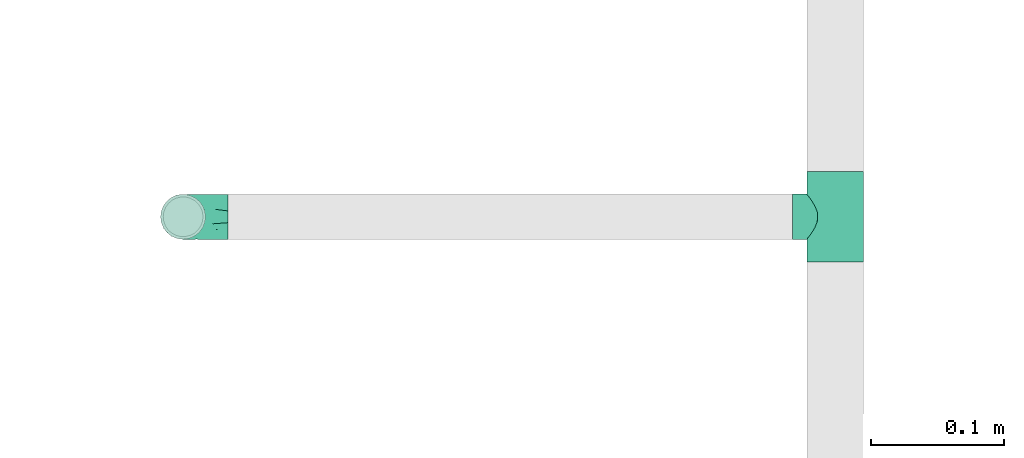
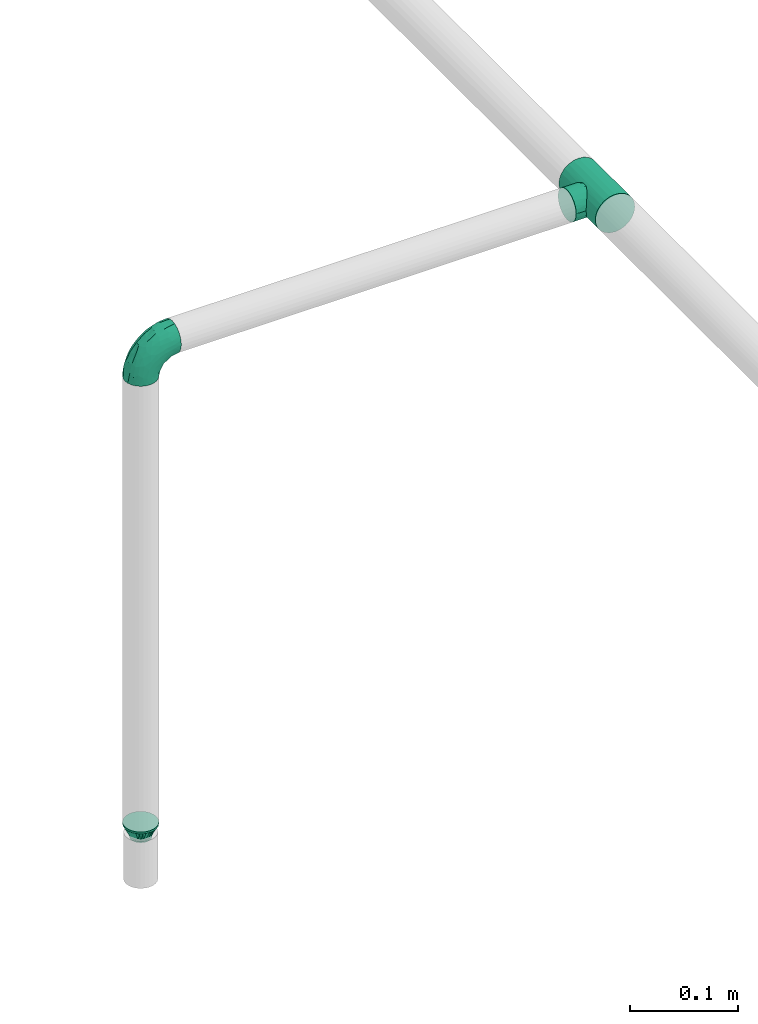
# One storey, part 40 of 95: 3 flow fittings.
"""IFC2X3 building model written with IfcOpenShell, lengths in millimetres."""

from ifc_helpers import new_model, entity, si_unit, converted_unit, derived_unit, direction, frame, origin_with_axes, place, context, subcontext, project, spatial, open_shell, surface_model, source, transform, mapped, type_object, element, save


model = new_model("IFC2X3")

# Units and contexts
model_context = context("Model", 3, precision=0.01, world=frame((0.0, 4.29681676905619e-09, 0.0)), true_north=direction((4.01073788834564e-13, 1.0)))
plan_context = context("Plan", 3, precision=0.01, world=frame((0.0, 4.29681676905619e-09, 0.0)), true_north=direction((4.01073788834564e-13, 1.0)))
body_context = subcontext(model_context, "Body", "Model", "MODEL_VIEW")
ifc_project = project(units=[converted_unit("PLANEANGLEUNIT", "DEGREE", entity("IfcPositiveLengthMeasure", 0.0174532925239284), si_unit("PLANEANGLEUNIT", "RADIAN"), dimensions=[0, 0, 0, 0, 0, 0, 0]), si_unit("AREAUNIT", "SQUARE_METRE"), si_unit("LENGTHUNIT", "METRE", prefix="MILLI"), si_unit("MASSUNIT", "GRAM", prefix="KILO"), si_unit("POWERUNIT", "WATT"), si_unit("PRESSUREUNIT", "PASCAL"), si_unit("FORCEUNIT", "NEWTON", prefix="KILO"), si_unit("ELECTRICVOLTAGEUNIT", "VOLT"), si_unit("ELECTRICCURRENTUNIT", "AMPERE"), si_unit("THERMODYNAMICTEMPERATUREUNIT", "DEGREE_CELSIUS"), si_unit("TIMEUNIT", "SECOND"), si_unit("VOLUMEUNIT", "CUBIC_METRE"), derived_unit("LINEARVELOCITYUNIT", [(si_unit("LENGTHUNIT", "METRE"), 1), (si_unit("TIMEUNIT", "SECOND"), -1)]), derived_unit("VOLUMETRICFLOWRATEUNIT", [(si_unit("VOLUMEUNIT", "CUBIC_METRE"), 1), (si_unit("TIMEUNIT", "SECOND"), -1)]), derived_unit("THERMALTRANSMITTANCEUNIT", [(si_unit("POWERUNIT", "WATT"), 1), (si_unit("THERMODYNAMICTEMPERATUREUNIT", "KELVIN"), -1), (si_unit("AREAUNIT", "SQUARE_METRE"), -1)]), derived_unit("SOUNDPRESSUREUNIT", [(si_unit("PRESSUREUNIT", "PASCAL"), 1)])], contexts=[model_context, plan_context])

# Site, building, storey
site_placement = place(None, frame((0.0, -4.29681676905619e-09, 0.0), z_axis=(0.0, 0.0, 1.0), x_axis=(1.0, 0.0, 0.0)))
site = spatial("IfcSite", under=ifc_project, at=site_placement, CompositionType="ELEMENT")
building_placement = place(site_placement, frame((0.0, 4.29681676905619e-09, 0.0), z_axis=(0.0, 0.0, 1.0), x_axis=(1.0, 0.0, 0.0)))
building = spatial("IfcBuilding", under=site, at=building_placement, Name="mc-building", CompositionType="ELEMENT")
storey_placement = place(building_placement, frame((0.0, 0.0, 210900.0), z_axis=(0.0, 0.0, 1.0), x_axis=(1.0, 0.0, 0.0)))
storey = spatial("IfcBuildingStorey", under=building, at=storey_placement, Name="Nivå F", CompositionType="ELEMENT", Elevation=210900.0)

# Flow fittings
pipe_fitting_type_1 = type_object("IfcPipeFittingType", Name="magi_pipe_fe_reducer_centric_short_NOR", PredefinedType="TRANSITION")
shared_shape_1 = source(origin_with_axes(), body_context, "Body", "SurfaceModel", [
    surface_model("IfcShellBasedSurfaceModel", [(14.4, 5.35, -9.26647), (14.4, 0.0, -10.7), (14.4, 2.76936, -10.33541), (14.4, 10.33541, -2.76936), (14.4, 7.56604, -7.56604), (14.4, -10.33541, -2.76936), (14.4, 9.26647, -5.35), (14.4, 0.0, 10.7), (14.4, -5.35, -9.26647), (14.4, -2.76936, -10.33541), (14.4, -7.56604, -7.56604), (14.4, -9.26647, -5.35), (14.4, 10.7, 0.0), (14.4, 10.33541, 2.76936), (14.4, 9.26647, 5.35), (14.4, 7.56604, 7.56604), (14.4, 2.76936, 10.33541), (14.4, 5.35, 9.26647), (14.4, -10.33541, 2.76936), (14.4, -7.56604, 7.56604), (14.4, -9.26647, 5.35), (14.4, -10.7, 0.0), (14.4, -2.76936, 10.33541), (14.4, -5.35, 9.26647), (12.4, 2.76936, 10.33541), (12.4, -10.33541, -2.76936), (12.4, 0.0, 10.7), (12.4, 5.35, 9.26647), (12.4, 7.56604, 7.56604), (12.4, 9.26647, 5.35), (12.4, 10.33541, 2.76936), (12.4, -10.33541, 2.76936), (12.4, -2.76936, 10.33541), (12.4, -7.56604, 7.56604), (12.4, -5.35, 9.26647), (12.4, -9.26647, 5.35), (12.4, -10.7, 0.0), (12.4, 10.33541, -2.76936), (12.4, 5.35, -9.26647), (12.4, 9.26647, -5.35), (12.4, 7.56604, -7.56604), (12.4, 2.76936, -10.33541), (12.4, -9.26647, -5.35), (12.4, -5.35, -9.26647), (12.4, -7.56604, -7.56604), (12.4, 0.0, -10.7), (12.4, -2.76936, -10.33541), (12.4, 10.7, 0.0), (-2.0, 11.9501, 11.9501), (-2.0, 0.0, 16.9), (-2.0, 4.37404, 16.32415), (-2.0, 8.45, 14.63583), (-2.0, 14.63583, 8.45), (-2.0, 16.32415, 4.37404), (-2.0, -16.32415, 4.37404), (-2.0, -8.45, 14.63583), (-2.0, -14.63583, 8.45), (-2.0, -11.9501, 11.9501), (-2.0, -4.37404, 16.32415), (-2.0, -16.32415, -4.37404), (-2.0, -16.9, 0.0), (-2.0, -8.45, -14.63583), (-2.0, 16.32415, -4.37404), (-2.0, 11.9501, -11.9501), (-2.0, 14.63583, -8.45), (-2.0, 8.45, -14.63583), (-2.0, 4.37404, -16.32415), (-2.0, 0.0, -16.9), (-2.0, -11.9501, -11.9501), (-2.0, -14.63583, -8.45), (-2.0, -4.37404, -16.32415), (-2.0, 16.9, 0.0), (0.0, 4.37404, -16.32415), (0.0, 8.45, -14.63583), (0.0, 11.9501, -11.9501), (0.0, 0.0, -16.9), (0.0, 16.32415, -4.37404), (0.0, 16.32415, 4.37404), (0.0, 14.63583, -8.45), (0.0, -8.45, -14.63583), (0.0, -4.37404, -16.32415), (0.0, -11.9501, -11.9501), (0.0, -16.32415, -4.37404), (0.0, -14.63583, -8.45), (0.0, -16.32415, 4.37404), (0.0, 16.9, 0.0), (0.0, 14.63583, 8.45), (0.0, 11.9501, 11.9501), (0.0, 4.37404, 16.32415), (0.0, 8.45, 14.63583), (0.0, 0.0, 16.9), (0.0, -14.63583, 8.45), (0.0, -16.9, 0.0), (0.0, -8.45, 14.63583), (0.0, -11.9501, 11.9501), (0.0, -4.37404, 16.32415), (12.4, 9.3625, -2.31662), (0.0, 14.42505, -5.97505), (0.0, 15.66253, -2.98753), (12.4, -6.6875, -6.94985), (0.0, -13.18758, -8.96258), (0.0, 2.98753, -15.66253), (12.4, 0.0, -9.26647), (12.4, 6.6875, -6.94985), (0.0, 8.96258, -13.18758), (12.4, -9.3625, -2.31662), (0.0, -15.66253, -2.98753), (0.0, -14.42505, -5.97505), (0.0, 5.97505, -14.42505), (0.0, -2.98753, -15.66253), (0.0, -8.96258, -13.18758), (0.0, 13.18758, -8.96258), (12.4, 8.025, -4.63324), (12.4, -2.675, -9.26647), (12.4, 2.675, -9.26647), (0.0, -5.97505, -14.42505), (12.4, -8.025, -4.63324), (12.4, -9.3625, 2.31662), (0.0, -14.42505, 5.97505), (0.0, -15.66253, 2.98753), (12.4, 6.6875, 6.94985), (0.0, 13.18758, 8.96258), (0.0, -2.98753, 15.66253), (12.4, 0.0, 9.26647), (12.4, -6.6875, 6.94985), (0.0, -8.96258, 13.18758), (12.4, 9.3625, 2.31662), (0.0, 15.66253, 2.98753), (0.0, 14.42505, 5.97505), (0.0, -5.97505, 14.42505), (0.0, 2.98753, 15.66253), (0.0, 8.96258, 13.18758), (0.0, -13.18758, 8.96258), (12.4, -8.025, 4.63324), (12.4, 2.675, 9.26647), (12.4, -2.675, 9.26647), (0.0, 5.97505, 14.42505), (12.4, 8.025, 4.63324)], [open_shell([[[0, 1, 2]], [[3, 0, 4]], [[5, 0, 3]], [[3, 4, 6]], [[7, 5, 3]], [[1, 8, 9]], [[1, 0, 8]], [[10, 5, 11]], [[5, 10, 8]], [[0, 5, 8]], [[3, 12, 13]], [[13, 14, 15]], [[13, 15, 16]], [[7, 3, 16]], [[16, 15, 17]], [[7, 18, 5]], [[18, 19, 20]], [[21, 5, 18]], [[19, 22, 23]], [[22, 19, 18]], [[7, 22, 18]], [[13, 16, 3]], [[24, 25, 26]], [[27, 25, 24]], [[28, 29, 30]], [[28, 25, 27]], [[31, 26, 25]], [[32, 33, 34]], [[33, 32, 31]], [[33, 31, 35]], [[32, 26, 31]], [[31, 25, 36]], [[30, 37, 28]], [[25, 28, 37]], [[38, 37, 39]], [[37, 38, 25]], [[38, 39, 40]], [[41, 25, 38]], [[42, 43, 44]], [[43, 42, 25]], [[43, 45, 46]], [[43, 25, 41]], [[41, 45, 43]], [[37, 30, 47]], [[25, 5, 36]], [[42, 11, 25]], [[8, 44, 43]], [[42, 44, 10]], [[9, 43, 46]], [[25, 11, 5]], [[5, 21, 36]], [[9, 8, 43]], [[10, 44, 8]], [[10, 11, 42]], [[1, 9, 46]], [[46, 45, 1]], [[41, 2, 45]], [[38, 0, 41]], [[6, 40, 39]], [[38, 40, 4]], [[3, 39, 37]], [[38, 4, 0]], [[0, 2, 41]], [[12, 3, 37]], [[6, 39, 3]], [[6, 4, 40]], [[47, 12, 37]], [[45, 2, 1]], [[30, 13, 47]], [[29, 14, 30]], [[17, 28, 27]], [[29, 28, 15]], [[16, 27, 24]], [[30, 14, 13]], [[13, 12, 47]], [[16, 17, 27]], [[15, 28, 17]], [[15, 14, 29]], [[7, 16, 24]], [[24, 26, 7]], [[32, 22, 26]], [[34, 23, 32]], [[20, 33, 35]], [[34, 33, 19]], [[18, 35, 31]], [[34, 19, 23]], [[23, 22, 32]], [[21, 18, 31]], [[20, 35, 18]], [[20, 19, 33]], [[36, 21, 31]], [[26, 22, 7]], [[48, 49, 50]], [[48, 50, 51]], [[48, 52, 53]], [[48, 53, 49]], [[49, 53, 54]], [[55, 56, 57]], [[55, 58, 49]], [[56, 55, 49]], [[49, 54, 56]], [[54, 59, 60]], [[54, 53, 61]], [[53, 62, 63]], [[63, 62, 64]], [[63, 65, 66]], [[61, 53, 63]], [[67, 63, 66]], [[59, 68, 69]], [[68, 59, 61]], [[61, 67, 70]], [[59, 54, 61]], [[63, 67, 61]], [[53, 71, 62]], [[72, 73, 74]], [[75, 72, 74]], [[74, 76, 77]], [[76, 74, 78]], [[74, 77, 79]], [[75, 79, 80]], [[75, 74, 79]], [[81, 82, 83]], [[82, 81, 79]], [[79, 84, 82]], [[77, 76, 85]], [[77, 86, 87]], [[77, 87, 88]], [[88, 84, 79]], [[88, 87, 89]], [[84, 88, 90]], [[90, 91, 84]], [[92, 82, 84]], [[91, 93, 94]], [[91, 90, 93]], [[93, 90, 95]], [[79, 77, 88]], [[59, 82, 60]], [[69, 83, 59]], [[79, 68, 61]], [[69, 68, 81]], [[80, 61, 70]], [[59, 83, 82]], [[82, 92, 60]], [[80, 79, 61]], [[81, 68, 79]], [[81, 83, 69]], [[75, 80, 70]], [[70, 67, 75]], [[66, 72, 67]], [[65, 73, 66]], [[78, 63, 64]], [[65, 63, 74]], [[76, 64, 62]], [[65, 74, 73]], [[73, 72, 66]], [[85, 76, 62]], [[78, 64, 76]], [[78, 74, 63]], [[71, 85, 62]], [[67, 72, 75]], [[53, 77, 71]], [[52, 86, 53]], [[89, 48, 51]], [[52, 48, 87]], [[88, 51, 50]], [[53, 86, 77]], [[77, 85, 71]], [[88, 89, 51]], [[87, 48, 89]], [[87, 86, 52]], [[90, 88, 50]], [[50, 49, 90]], [[58, 95, 49]], [[55, 93, 58]], [[91, 57, 56]], [[55, 57, 94]], [[84, 56, 54]], [[55, 94, 93]], [[93, 95, 58]], [[92, 84, 54]], [[91, 56, 84]], [[91, 94, 57]], [[60, 92, 54]], [[49, 95, 90]], [[27, 34, 47]], [[47, 34, 43]], [[43, 38, 47]], [[43, 34, 36]], [[90, 87, 94]], [[92, 94, 87]], [[87, 74, 92]], [[75, 92, 74]], [[81, 92, 75]], [[74, 87, 85]], [[96, 97, 98]], [[81, 99, 100]], [[101, 102, 75]], [[98, 85, 47]], [[74, 103, 104]], [[104, 103, 38]], [[105, 106, 107]], [[38, 108, 104]], [[102, 109, 75]], [[110, 99, 81]], [[47, 96, 98]], [[103, 111, 112]], [[109, 102, 113]], [[36, 92, 106]], [[102, 101, 114]], [[110, 115, 43]], [[96, 112, 97]], [[107, 116, 105]], [[36, 106, 105]], [[113, 115, 109]], [[43, 115, 113]], [[116, 107, 100]], [[108, 38, 114]], [[111, 103, 74]], [[111, 97, 112]], [[99, 110, 43]], [[116, 100, 99]], [[101, 108, 114]], [[117, 118, 119]], [[87, 120, 121]], [[122, 123, 90]], [[119, 92, 36]], [[94, 124, 125]], [[125, 124, 34]], [[126, 127, 128]], [[34, 129, 125]], [[123, 130, 90]], [[131, 120, 87]], [[36, 117, 119]], [[124, 132, 133]], [[130, 123, 134]], [[47, 85, 127]], [[123, 122, 135]], [[131, 136, 27]], [[117, 133, 118]], [[128, 137, 126]], [[47, 127, 126]], [[134, 136, 130]], [[27, 136, 134]], [[137, 128, 121]], [[129, 34, 135]], [[132, 124, 94]], [[132, 118, 133]], [[120, 131, 27]], [[137, 121, 120]], [[122, 129, 135]]])]),
])
flow_fitting_1_placement = place(storey_placement, frame((526901.52024, 441214.84363, 3769.35200000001), z_axis=(0.0, -1.0, 0.0), x_axis=(0.0, 0.0, -1.0)))
element("IfcFlowFitting", 1, at=flow_fitting_1_placement, inside=storey, type_object=pipe_fitting_type_1, Name="magi_pipe_fe_reducer_centric_short_NOR", context=body_context, shape_type="MappedRepresentation", body=[
    mapped(shared_shape_1, transform((0.0, 0.0, 0.0), scale=1.0)),
])
pipe_fitting_type_2 = type_object("IfcPipeFittingType", Name="magi_pipe_fe_tee_centric_90_NOR", PredefinedType="JUNCTION")
shared_shape_2 = source(origin_with_axes(), body_context, "Body", "SurfaceModel", [
    surface_model("IfcShellBasedSurfaceModel", [(-33.8, 0.0, -21.2), (-33.8, -5.48696, -20.47763), (-33.8, 5.48696, -20.47763), (-33.8, 10.6, -18.35974), (-33.8, 14.99066, -14.99066), (-33.8, -20.47763, 5.48696), (-33.8, 18.35974, -10.6), (-33.8, 10.6, 18.35974), (-33.8, -14.99066, -14.99066), (-33.8, -18.35974, -10.6), (-33.8, -10.6, -18.35974), (-33.8, -20.47763, -5.48696), (-33.8, -21.2, 0.0), (-33.8, 18.35974, 10.6), (-33.8, 20.47763, -5.48696), (-33.8, 20.47763, 5.48696), (-33.8, 21.2, 0.0), (-33.8, 14.99066, 14.99066), (-33.8, 5.48696, 20.47763), (-33.8, 0.0, 21.2), (-33.8, -18.35974, 10.6), (-33.8, -14.99066, 14.99066), (-33.8, -10.6, 18.35974), (-33.8, -5.48696, 20.47763), (33.8, 5.48696, -20.47763), (33.8, -5.48696, -20.47763), (33.8, 0.0, -21.2), (33.8, 14.99066, -14.99066), (33.8, 10.6, -18.35974), (33.8, 18.35974, -10.6), (33.8, 20.47763, -5.48696), (33.8, -21.2, 0.0), (33.8, -10.6, -18.35974), (33.8, -18.35974, -10.6), (33.8, -14.99066, -14.99066), (33.8, -20.47763, -5.48696), (33.8, -20.47763, 5.48696), (33.8, 21.2, 0.0), (33.8, 20.47763, 5.48696), (33.8, 18.35974, 10.6), (33.8, 10.6, 18.35974), (33.8, 14.99066, 14.99066), (33.8, 0.0, 21.2), (33.8, 5.48696, 20.47763), (33.8, -14.99066, 14.99066), (33.8, -18.35974, 10.6), (33.8, -10.6, 18.35974), (33.8, -5.48696, 20.47763), (16.9, -21.2, 0.0), (15.78624, -20.32327, 6.03364), (12.81343, -18.11115, 11.01935), (8.52479, -15.37862, 14.59239), (3.07939, -13.16482, 16.61708), (-16.9, -21.2, 0.0), (-15.78686, -20.32375, 6.032), (-8.52604, -15.37932, 14.59166), (-3.0848, -13.16609, 16.61608), (-12.81602, -18.11299, 11.01634), (3.07939, -13.16482, -16.61708), (12.81343, -18.11115, -11.01935), (8.52479, -15.37862, -14.59239), (15.78624, -20.32327, -6.03364), (-3.0848, -13.16609, -16.61608), (-8.52604, -15.37932, -14.59166), (-12.81602, -18.11299, -11.01634), (-15.78686, -20.32375, -6.032), (4.37404, -31.8, -16.32415), (-16.9, -31.8, 0.0), (0.0, -31.8, -16.9), (14.63583, -31.8, -8.45), (8.45, -31.8, -14.63583), (16.32415, -31.8, -4.37404), (11.9501, -31.8, -11.9501), (-11.9501, -31.8, -11.9501), (-8.45, -31.8, -14.63583), (-4.37404, -31.8, -16.32415), (-14.63583, -31.8, -8.45), (-16.32415, -31.8, -4.37404), (16.9, -31.8, 0.0), (8.45, -31.8, 14.63583), (16.32415, -31.8, 4.37404), (14.63583, -31.8, 8.45), (-8.45, -31.8, 14.63583), (11.9501, -31.8, 11.9501), (4.37404, -31.8, 16.32415), (-16.32415, -31.8, 4.37404), (-11.9501, -31.8, 11.9501), (-14.63583, -31.8, 8.45), (0.0, -31.8, 16.9), (-4.37404, -31.8, 16.32415), (-16.34343, -20.76188, 3.016), (16.34312, -20.76163, 3.01682), (-0.00271, -13.16546, 16.61658), (16.34312, -20.76163, -3.01682), (-0.00271, -13.16546, -16.61658), (-16.34343, -20.76188, -3.016)], [open_shell([[[0, 1, 2]], [[3, 2, 4]], [[5, 2, 1]], [[4, 2, 6]], [[6, 2, 7]], [[8, 9, 10]], [[1, 10, 9]], [[9, 11, 1]], [[12, 1, 11]], [[5, 1, 12]], [[13, 14, 6]], [[13, 15, 16]], [[6, 7, 13]], [[5, 7, 2]], [[17, 13, 7]], [[18, 7, 19]], [[20, 21, 5]], [[22, 5, 21]], [[23, 19, 22]], [[7, 5, 22]], [[22, 19, 7]], [[16, 14, 13]], [[24, 25, 26]], [[27, 24, 28]], [[29, 30, 24]], [[29, 24, 27]], [[31, 24, 30]], [[32, 33, 34]], [[33, 32, 25]], [[33, 31, 35]], [[31, 33, 25]], [[25, 24, 31]], [[30, 36, 31]], [[37, 38, 39]], [[37, 39, 40]], [[37, 40, 36]], [[40, 39, 41]], [[42, 40, 43]], [[36, 44, 45]], [[44, 36, 46]], [[46, 42, 47]], [[46, 36, 40]], [[40, 42, 46]], [[37, 36, 30]], [[31, 36, 48]], [[49, 48, 36]], [[36, 45, 49]], [[45, 44, 50]], [[51, 50, 44]], [[52, 51, 44]], [[44, 46, 52]], [[45, 50, 49]], [[53, 54, 5]], [[5, 12, 53]], [[54, 20, 5]], [[55, 56, 21]], [[20, 57, 21]], [[57, 20, 54]], [[21, 57, 55]], [[56, 22, 21]], [[52, 22, 56]], [[19, 47, 42]], [[23, 46, 47]], [[18, 42, 43]], [[39, 38, 15]], [[17, 40, 41]], [[13, 41, 39]], [[43, 40, 7]], [[16, 38, 37]], [[22, 46, 23]], [[23, 47, 19]], [[18, 19, 42]], [[43, 7, 18]], [[7, 40, 17]], [[13, 17, 41]], [[15, 13, 39]], [[38, 16, 15]], [[46, 22, 52]], [[6, 30, 29]], [[14, 37, 30]], [[4, 29, 27]], [[26, 25, 1]], [[2, 28, 24]], [[0, 24, 26]], [[27, 28, 3]], [[10, 25, 32]], [[16, 37, 14]], [[14, 30, 6]], [[4, 6, 29]], [[27, 3, 4]], [[3, 28, 2]], [[0, 2, 24]], [[1, 0, 26]], [[25, 10, 1]], [[32, 58, 10]], [[34, 59, 60]], [[59, 34, 33]], [[60, 58, 34]], [[34, 58, 32]], [[35, 31, 48]], [[35, 61, 33]], [[61, 35, 48]], [[33, 61, 59]], [[62, 63, 8]], [[8, 64, 9]], [[64, 8, 63]], [[62, 8, 10]], [[65, 53, 11]], [[65, 11, 9]], [[11, 53, 12]], [[65, 9, 64]], [[58, 62, 10]], [[66, 67, 68]], [[69, 66, 70]], [[69, 71, 66]], [[69, 70, 72]], [[67, 66, 71]], [[68, 73, 74]], [[74, 75, 68]], [[76, 67, 77]], [[73, 68, 76]], [[67, 76, 68]], [[71, 78, 67]], [[79, 78, 80]], [[79, 80, 81]], [[82, 67, 79]], [[79, 81, 83]], [[82, 79, 84]], [[85, 86, 87]], [[86, 85, 82]], [[82, 88, 89]], [[85, 67, 82]], [[84, 88, 82]], [[79, 67, 78]], [[85, 90, 67]], [[57, 87, 86]], [[85, 87, 54]], [[86, 82, 55]], [[85, 54, 90]], [[90, 53, 67]], [[54, 87, 57]], [[91, 49, 80]], [[55, 89, 56]], [[55, 57, 86]], [[88, 52, 92]], [[55, 82, 89]], [[52, 88, 84]], [[79, 51, 84]], [[50, 83, 81]], [[83, 51, 79]], [[81, 80, 49]], [[83, 50, 51]], [[51, 52, 84]], [[78, 91, 80]], [[49, 50, 81]], [[91, 78, 48]], [[88, 56, 89]], [[92, 56, 88]], [[71, 93, 78]], [[59, 69, 72]], [[71, 69, 61]], [[72, 70, 60]], [[93, 48, 78]], [[61, 69, 59]], [[60, 66, 58]], [[60, 59, 72]], [[68, 62, 94]], [[60, 70, 66]], [[95, 67, 53]], [[95, 65, 77]], [[71, 61, 93]], [[75, 62, 68]], [[65, 76, 77]], [[73, 76, 64]], [[68, 58, 66]], [[75, 63, 62]], [[63, 75, 74]], [[74, 73, 63]], [[63, 73, 64]], [[64, 76, 65]], [[67, 95, 77]], [[94, 58, 68]]])]),
])
flow_fitting_2_placement = place(storey_placement, frame((527390.10162, 441214.84363, 4310.0), z_axis=(0.0, 0.0, -1.0), x_axis=(0.0, 1.0, 0.0)))
element("IfcFlowFitting", 2, at=flow_fitting_2_placement, inside=storey, type_object=pipe_fitting_type_2, Name="magi_pipe_fe_tee_centric_90_NOR", context=body_context, shape_type="MappedRepresentation", body=[
    mapped(shared_shape_2, transform((0.0, 0.0, 0.0), scale=1.0)),
])
pipe_fitting_type_3 = type_object("IfcPipeFittingType", Name="magi_pipe_fe_elbow_short_001", PredefinedType="BEND")
shared_shape_3 = source(origin_with_axes(), body_context, "Body", "SurfaceModel", [
    surface_model("IfcShellBasedSurfaceModel", [(-33.8, 8.45, -14.63583), (-33.8, 4.37404, -16.32415), (-33.8, 11.9501, -11.9501), (-33.8, -11.9501, -11.9501), (-33.8, -14.63583, -8.45), (-33.8, -8.45, -14.63583), (-33.8, 0.0, -16.9), (-33.8, -4.37404, -16.32415), (-33.8, -4.37404, 16.32415), (-33.8, 0.0, 16.9), (-33.8, -8.45, 14.63583), (-33.8, 16.32415, -4.37404), (-33.8, 14.63583, -8.45), (-33.8, -16.32415, -4.37404), (-33.8, -16.9, 0.0), (-33.8, -16.32415, 4.37404), (-33.8, 11.9501, 11.9501), (-33.8, 14.63583, 8.45), (-33.8, 16.32415, 4.37404), (-33.8, 4.37404, 16.32415), (-33.8, 8.45, 14.63583), (-33.8, -14.63583, 8.45), (-33.8, -11.9501, 11.9501), (-33.8, 16.9, 0.0), (-11.9501, 33.8, -11.9501), (0.0, 33.8, -16.9), (-4.37404, 33.8, -16.32415), (-8.45, 33.8, -14.63583), (-14.63583, 33.8, -8.45), (-16.32415, 33.8, -4.37404), (14.63583, 33.8, -8.45), (8.45, 33.8, 14.63583), (16.32415, 33.8, -4.37404), (8.45, 33.8, -14.63583), (11.9501, 33.8, -11.9501), (4.37404, 33.8, -16.32415), (16.32415, 33.8, 4.37404), (16.9, 33.8, 0.0), (-11.9501, 33.8, 11.9501), (-16.32415, 33.8, 4.37404), (-14.63583, 33.8, 8.45), (-8.45, 33.8, 14.63583), (-4.37404, 33.8, 16.32415), (11.9501, 33.8, 11.9501), (14.63583, 33.8, 8.45), (0.0, 33.8, 16.9), (4.37404, 33.8, 16.32415), (-16.9, 33.8, 0.0), (-24.79389, -13.12945, 9.48721), (-22.19287, -9.75018, 12.59315), (-24.09897, -14.97035, 0.0), (-14.93934, -10.76256, 8.5297), (-22.46095, -14.75051, 5.27077), (14.75051, 22.46094, 5.27077), (11.9251, 13.23888, 4.33236), (13.04069, 14.39795, 0.0), (7.71387, 13.68847, 11.55891), (9.75018, 22.19287, 12.59315), (4.10169, 13.0571, 14.04018), (-24.84007, -6.39063, 15.2048), (-25.81779, -2.23879, 16.61097), (-23.66549, 2.59054, 16.87119), (-26.50418, 14.06512, 11.08152), (-24.21253, 17.66365, 7.72657), (-29.58514, 15.86957, 7.00283), (-6.17382, -7.5455, 0.0), (-13.23888, -11.9251, 4.33236), (-14.39795, -13.04069, 0.0), (-17.81434, 18.87373, 11.97104), (-6.30846, 29.15138, 15.82987), (-2.31622, 25.28002, 16.85849), (-29.23923, 10.23435, 13.77053), (-1.45439, -2.85688, 7.61475), (-0.28326, 0.34872, 10.09509), (-5.74484, -4.04709, 10.4122), (-4.41137, 11.31918, 16.59407), (-8.39727, 3.10034, 15.7812), (-1.72649, 9.1306, 15.53089), (-17.39909, 24.75344, 7.64977), (-26.19233, 20.0512, 0.0), (-28.14518, 17.29657, 4.25857), (-26.05147, 6.6281, 15.96447), (-5.87354, 16.61944, 16.86968), (-12.51807, 12.51807, 16.48937), (-10.06312, 7.38516, 16.81295), (-3.01882, 3.01882, 13.81718), (-13.0571, -4.10169, 14.04018), (-16.82553, -0.15166, 16.38038), (10.76256, 14.93934, 8.5297), (13.12945, 24.79389, 9.48721), (6.39063, 24.84007, 15.2048), (2.23879, 25.81779, 16.61097), (-13.68847, -7.71387, 11.55891), (14.97035, 24.09897, 0.0), (-7.30894, 22.89991, 16.09489), (-10.67958, 26.17414, 14.008), (-12.78295, 18.26924, 15.06066), (-13.88562, 22.45231, 12.93244), (-18.04944, 15.16501, 14.04434), (-23.11658, 20.08178, 4.02986), (-21.84989, 21.84989, 0.0), (-18.55817, 25.48277, 3.93065), (-13.95142, 26.94732, 11.03289), (-18.57098, 7.23906, 16.59756), (-16.58335, 4.14122, 16.89279), (-17.96666, 11.46709, 15.63151), (-9.84453, 17.54304, 16.18938), (0.15166, 16.82553, 16.38038), (-23.27207, 11.47201, 14.23154), (3.84842, 5.86994, 10.70473), (-8.0212, -7.54413, 7.93275), (1.00345, -2.19508, 4.57414), (5.13203, 3.01004, 5.90201), (5.24161, 1.7543, 2.53265), (8.70457, 7.04947, 3.99182), (-20.0512, 26.19233, 0.0), (8.4852, 8.76699, 7.09296), (-4.55488, -6.72064, 4.90681), (2.05031, -2.05031, 0.0), (7.5455, 6.17382, 0.0), (-26.75399, 2.1369, -16.845), (-14.61995, 24.73803, -11.27736), (-28.45274, -13.45335, -9.81895), (-26.00469, 6.63555, -15.96645), (-23.06726, 20.04573, -4.26202), (-13.80647, -4.26506, -14.17873), (-14.67501, -0.21081, -16.07388), (-6.7902, -0.2828, -13.8478), (-24.53586, 11.08096, -14.13417), (-26.72048, 14.00837, -11.05776), (10.0967, 24.44989, -12.75976), (5.83237, 21.40218, -15.03047), (6.66249, 28.54238, -15.38093), (-20.38182, 15.48705, -12.74596), (12.53268, 21.23441, -9.15363), (12.54494, 15.67504, -5.54878), (9.7522, 12.89279, -8.66343), (-15.65186, 19.64213, -13.01327), (-12.03528, 20.66498, -14.67665), (-15.61907, 15.61906, -14.83879), (-25.56551, -15.26206, 0.0), (-24.65452, -15.12934, -5.50955), (13.45335, 28.45274, -9.81895), (15.12934, 24.65452, -5.50955), (-7.35442, -8.31014, -5.65563), (-15.67504, -12.54494, -5.54878), (-24.44989, -10.0967, -12.75976), (0.16522, 0.41303, -9.71728), (-5.70658, -5.33066, -8.89288), (-5.13869, -2.37198, -11.53565), (-21.23441, -12.53268, -9.15363), (0.71146, 7.93863, -14.09382), (0.21081, 14.67501, -16.07388), (3.49291, 14.42772, -14.76381), (-24.89911, -2.13088, -16.591), (-28.54238, -6.66249, -15.38093), (-18.44386, -7.71663, -13.26957), (2.13088, 24.89911, -16.591), (-28.64342, 17.44413, -2.89318), (1.70017, -1.28722, -5.09504), (-16.57067, 26.81947, -7.36596), (-17.69055, 27.4263, -3.76405), (-12.89279, -9.7522, -8.66343), (-5.96611, 5.96611, -15.95814), (-20.53709, 20.09345, -8.28985), (-2.1369, 26.75399, -16.845), (-6.89872, 24.58781, -16.02578), (-10.60739, 26.53157, -13.98044), (-21.40218, -5.83237, -15.03047), (2.93192, 5.89627, -11.55917), (6.89393, 12.61842, -11.82233), (5.58056, 5.95325, -8.79455), (-3.99512, 18.61798, -16.89635), (8.31014, 7.35442, -5.65563), (-9.1383, 9.86148, -16.89041), (-9.99983, 16.02119, -16.39699), (-16.68576, 9.78031, -16.34199), (-27.01915, 16.61158, -7.12979), (15.26206, 25.56551, 0.0), (-18.61798, 3.99512, -16.89635), (-19.37495, 27.82495, 0.0), (-12.61842, -6.89393, -11.82233), (-18.84705, 19.14018, -10.96545)], [open_shell([[[0, 1, 2]], [[3, 4, 5]], [[6, 7, 5]], [[8, 9, 10]], [[1, 6, 2]], [[11, 12, 2]], [[4, 2, 6]], [[2, 13, 10]], [[5, 4, 6]], [[2, 4, 13]], [[14, 15, 13]], [[11, 2, 16]], [[11, 17, 18]], [[11, 16, 17]], [[19, 20, 16]], [[16, 2, 10]], [[19, 16, 10]], [[21, 22, 15]], [[22, 13, 15]], [[22, 10, 13]], [[10, 9, 19]], [[11, 18, 23]], [[24, 25, 26]], [[24, 26, 27]], [[24, 28, 29]], [[25, 24, 30]], [[31, 32, 24]], [[33, 30, 34]], [[33, 35, 25]], [[25, 30, 33]], [[32, 30, 24]], [[32, 36, 37]], [[38, 24, 29]], [[39, 40, 29]], [[40, 38, 29]], [[38, 41, 42]], [[38, 31, 24]], [[31, 38, 42]], [[36, 43, 44]], [[36, 32, 43]], [[31, 45, 46]], [[32, 31, 43]], [[42, 45, 31]], [[39, 29, 47]], [[22, 48, 49]], [[15, 14, 50]], [[51, 48, 52]], [[53, 54, 55]], [[48, 22, 21]], [[15, 52, 21]], [[56, 57, 58]], [[49, 10, 22]], [[49, 59, 10]], [[9, 60, 61]], [[62, 63, 64]], [[65, 66, 67]], [[57, 43, 31]], [[62, 68, 63]], [[42, 69, 70]], [[20, 71, 16]], [[8, 60, 9]], [[72, 73, 74]], [[75, 76, 77]], [[16, 62, 17]], [[40, 39, 78]], [[79, 23, 80]], [[64, 18, 17]], [[9, 61, 19]], [[19, 81, 20]], [[82, 83, 84]], [[74, 85, 86]], [[59, 86, 87]], [[88, 89, 57]], [[90, 31, 46]], [[44, 53, 36]], [[46, 45, 91]], [[54, 53, 88]], [[44, 89, 53]], [[92, 86, 49]], [[89, 44, 43]], [[10, 59, 8]], [[53, 55, 93]], [[93, 36, 53]], [[66, 52, 67]], [[94, 82, 70]], [[95, 96, 94]], [[97, 98, 96]], [[79, 99, 100]], [[41, 38, 95]], [[101, 100, 99]], [[68, 78, 63]], [[42, 41, 69]], [[23, 18, 80]], [[95, 94, 69]], [[78, 101, 99]], [[38, 102, 95]], [[70, 45, 42]], [[97, 95, 102]], [[15, 50, 52]], [[90, 57, 31]], [[57, 90, 58]], [[81, 19, 61]], [[103, 104, 84]], [[105, 81, 103]], [[38, 40, 102]], [[106, 96, 83]], [[94, 106, 82]], [[91, 70, 107]], [[71, 62, 16]], [[62, 108, 98]], [[86, 59, 49]], [[67, 52, 50]], [[60, 59, 87]], [[92, 49, 51]], [[86, 85, 76]], [[91, 90, 46]], [[37, 36, 93]], [[107, 77, 58]], [[107, 58, 90]], [[58, 85, 109]], [[110, 74, 92]], [[72, 74, 110]], [[66, 51, 52]], [[72, 111, 112]], [[113, 114, 112]], [[56, 88, 57]], [[52, 48, 21]], [[49, 48, 51]], [[57, 89, 43]], [[53, 89, 88]], [[103, 81, 61]], [[71, 81, 108]], [[18, 64, 80]], [[63, 78, 99]], [[47, 115, 101]], [[101, 115, 100]], [[40, 78, 102]], [[68, 102, 78]], [[97, 96, 95]], [[105, 98, 108]], [[103, 84, 83]], [[107, 70, 82]], [[76, 84, 87]], [[82, 84, 75]], [[70, 91, 45]], [[90, 91, 107]], [[59, 60, 8]], [[61, 60, 87]], [[73, 85, 74]], [[109, 112, 116]], [[103, 61, 104]], [[105, 103, 83]], [[96, 105, 83]], [[81, 105, 108]], [[96, 98, 105]], [[62, 98, 68]], [[61, 87, 104]], [[87, 84, 104]], [[86, 76, 87]], [[77, 76, 85]], [[58, 77, 85]], [[75, 77, 107]], [[82, 75, 107]], [[76, 75, 84]], [[81, 71, 20]], [[62, 71, 108]], [[95, 69, 41]], [[70, 69, 94]], [[62, 64, 17]], [[80, 63, 99]], [[63, 80, 64]], [[80, 99, 79]], [[66, 65, 117]], [[110, 66, 117]], [[112, 114, 116]], [[118, 117, 65]], [[110, 92, 51]], [[112, 111, 113]], [[119, 55, 54]], [[74, 86, 92]], [[58, 109, 56]], [[116, 56, 109]], [[66, 110, 51]], [[72, 110, 117]], [[111, 72, 117]], [[73, 112, 109]], [[117, 118, 111]], [[113, 111, 118]], [[118, 119, 113]], [[114, 119, 54]], [[119, 114, 113]], [[116, 54, 88]], [[54, 116, 114]], [[116, 88, 56]], [[112, 73, 72]], [[85, 73, 109]], [[78, 39, 101]], [[47, 101, 39]], [[102, 68, 97]], [[97, 68, 98]], [[82, 106, 83]], [[94, 96, 106]], [[1, 120, 6]], [[28, 24, 121]], [[3, 122, 4]], [[0, 123, 1]], [[100, 124, 79]], [[125, 126, 127]], [[128, 2, 129]], [[130, 131, 132]], [[128, 129, 133]], [[134, 135, 136]], [[137, 138, 139]], [[128, 0, 2]], [[67, 140, 141]], [[134, 142, 143]], [[141, 13, 4]], [[144, 65, 145]], [[146, 3, 5]], [[147, 148, 149]], [[145, 141, 150]], [[151, 152, 153]], [[154, 7, 6]], [[5, 155, 146]], [[150, 146, 156]], [[155, 5, 7]], [[143, 135, 134]], [[35, 157, 25]], [[23, 79, 158]], [[148, 159, 144]], [[160, 161, 29]], [[145, 162, 144]], [[163, 152, 151]], [[29, 28, 160]], [[121, 164, 160]], [[33, 34, 130]], [[25, 165, 26]], [[26, 165, 166]], [[142, 34, 30]], [[24, 27, 167]], [[124, 161, 164]], [[157, 35, 132]], [[155, 154, 168]], [[123, 0, 128]], [[169, 170, 171]], [[172, 157, 152]], [[26, 166, 27]], [[132, 35, 33]], [[142, 130, 34]], [[168, 154, 126]], [[136, 135, 173]], [[133, 137, 139]], [[2, 12, 129]], [[170, 131, 130]], [[30, 32, 143]], [[172, 174, 175]], [[176, 123, 128]], [[158, 177, 11]], [[135, 55, 119]], [[167, 27, 166]], [[175, 166, 172]], [[137, 167, 138]], [[122, 141, 4]], [[140, 14, 13]], [[32, 37, 178]], [[170, 130, 134]], [[152, 157, 131]], [[165, 157, 172]], [[153, 170, 151]], [[152, 163, 174]], [[168, 125, 156]], [[122, 146, 150]], [[120, 154, 6]], [[179, 174, 126]], [[179, 126, 154]], [[126, 163, 127]], [[162, 145, 150]], [[140, 13, 141]], [[32, 178, 143]], [[55, 143, 178]], [[177, 129, 12]], [[128, 133, 139]], [[176, 128, 139]], [[120, 123, 179]], [[121, 160, 28]], [[161, 100, 180]], [[166, 175, 138]], [[121, 24, 167]], [[161, 47, 29]], [[79, 124, 158]], [[124, 164, 177]], [[161, 124, 100]], [[136, 171, 170]], [[127, 163, 151]], [[147, 171, 159]], [[148, 144, 162]], [[127, 151, 169]], [[127, 181, 125]], [[129, 177, 164]], [[12, 11, 177]], [[159, 65, 144]], [[67, 141, 145]], [[143, 55, 135]], [[135, 119, 173]], [[123, 120, 1]], [[154, 120, 179]], [[157, 165, 25]], [[166, 165, 172]], [[172, 152, 174]], [[176, 139, 175]], [[126, 174, 163]], [[176, 174, 179]], [[174, 176, 175]], [[123, 176, 179]], [[150, 181, 162]], [[127, 149, 181]], [[181, 148, 162]], [[159, 148, 147]], [[171, 136, 173]], [[170, 134, 136]], [[159, 171, 173]], [[171, 147, 169]], [[169, 147, 149]], [[151, 170, 169]], [[164, 182, 129]], [[182, 121, 137]], [[181, 149, 148]], [[169, 149, 127]], [[182, 137, 133]], [[167, 137, 121]], [[166, 138, 167]], [[175, 139, 138]], [[129, 182, 133]], [[121, 182, 164]], [[161, 160, 164]], [[47, 161, 180]], [[177, 158, 124]], [[23, 158, 11]], [[130, 132, 33]], [[157, 132, 131]], [[143, 142, 30]], [[130, 142, 134]], [[154, 155, 7]], [[146, 155, 168]], [[146, 122, 3]], [[141, 122, 150]], [[152, 131, 153]], [[159, 119, 118]], [[67, 145, 65]], [[170, 153, 131]], [[119, 159, 173]], [[159, 118, 65]], [[156, 125, 181]], [[126, 125, 168]], [[150, 156, 181]], [[168, 156, 146]]])]),
])
flow_fitting_3_placement = place(storey_placement, frame((526901.52024, 441214.84363, 4310.0), z_axis=(0.0, -1.0, 0.0), x_axis=(-1.0, 0.0, 0.0)))
element("IfcFlowFitting", 3, at=flow_fitting_3_placement, inside=storey, type_object=pipe_fitting_type_3, Name="magi_pipe_fe_elbow_short_001", context=body_context, shape_type="MappedRepresentation", body=[
    mapped(shared_shape_3, transform((0.0, 0.0, 0.0), scale=1.0)),
])

save(model, "model.ifc")
